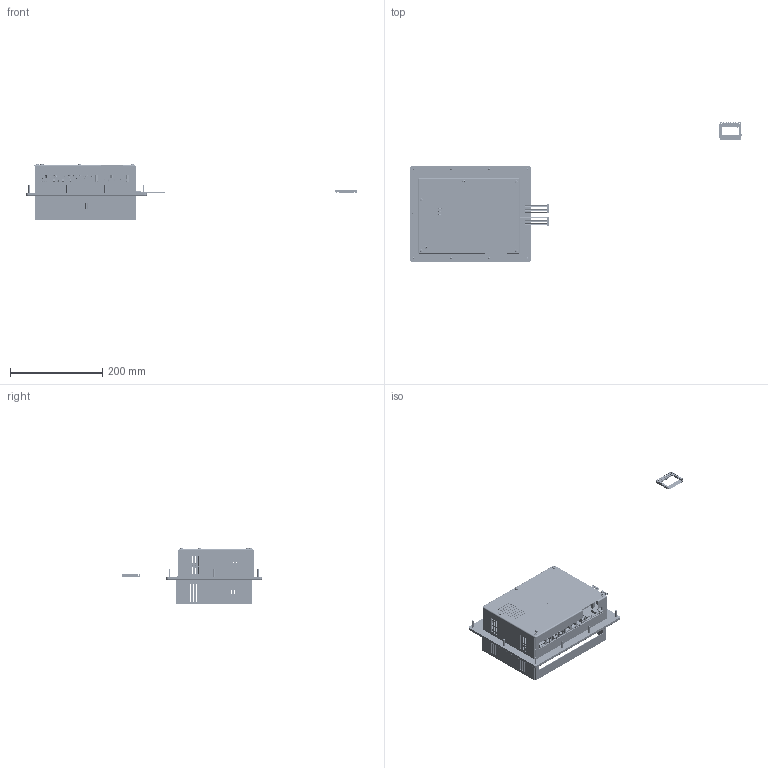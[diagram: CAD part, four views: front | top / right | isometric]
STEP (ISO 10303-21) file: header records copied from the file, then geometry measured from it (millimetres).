
FILE_DESCRIPTION( ( 'Unknown' ), '1' );
FILE_NAME( 'W:/Teams/Mech/SE data/Product_Lines/G3/G308C-V2/G308C1.stp', 'Unknown', ( 'Unknown' ), ( 'Unknown' ), 'PSStep 13.0', 'Unknown', ' ' );
FILE_SCHEMA( ( 'AUTOMOTIVE_DESIGN { 1 0 10303 214 1 1 1 1 }' ) );
Length unit declared in the file: inch
Products named in the file (133): HWSMEZ08; PB04283_; PN114329; SCOCMC03; WRPS0153; CV441400; SCLIDA04; WRPA0052; WRPS0143; Assem1; CNTP03X0; CNHFR040; CNMJ8803; CNZT0060; CNEP0500; CNBMS310; CNBMR140; CNBMR150; CNZB0120; CNZB0100; BAIHLD00; CNMJ6602; CNMJ8804; CNBMS400; CNHFR041; TRX00459; IN025M00; PZTE4020; 53261-0590; 51021-0500; 5 position wires; HWWLE000; HWSMEP08; 51021-1400; 14 position wires; s-632-1; cnbmr140; cnbmr150; 51021-1500; 15 position wires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
Bounding box: 720.24 x 303.03 x 123.51 mm (x, y, z)
Volume: 1797800.8 mm3; surface area: 1499761.6 mm2
Topology: 414 solids, 414 shells, 45483 faces, 127421 edges, 82248 vertices
Faces by surface type: plane 37730, cylinder 5902, torus 969, revolution 240, bspline 210, cone 200, extrusion 148, sphere 84
Full cylindrical faces by diameter (mm): 0.4 x150, 0.54 x18, 0.559 x30, 0.61 x42, 0.635 x366, 0.762 x99, 0.8 x21, 0.821 x3, 0.889 x150, 0.92 x36, 1.016 x45, 1.168 x21, 1.194 x18, 1.2 x26, 1.27 x3, 1.295 x6, 1.499 x9, 1.524 x12, 1.575 x12, 1.6 x6, 1.694 x8, 1.702 x6, 1.778 x45, 2.156 x4, 2.159 x12, 2.184 x9, 2.2 x6, 2.21 x6, 2.3 x18, 2.362 x5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
Entity records: 494857 total; most frequent: CARTESIAN_POINT 78429, ORIENTED_EDGE 69630, DIRECTION 63904, EDGE_CURVE 34815, VECTOR 30222, LINE 30184, VERTEX_POINT 22897, AXIS2_PLACEMENT_3D 16801
